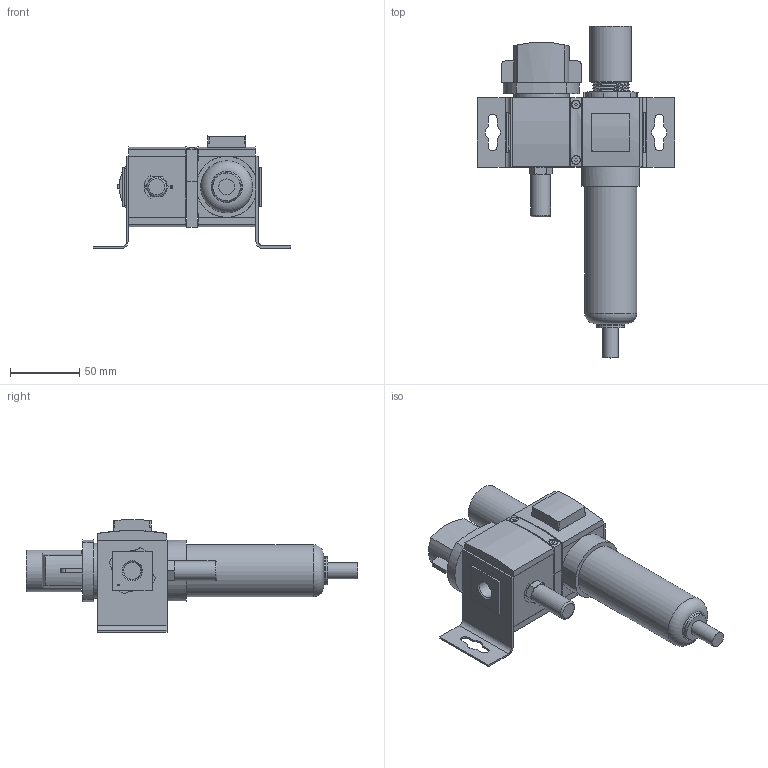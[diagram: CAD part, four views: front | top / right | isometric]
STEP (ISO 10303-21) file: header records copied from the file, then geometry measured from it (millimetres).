
FILE_DESCRIPTION( ( 'STEP AP214' ), '1' );
FILE_NAME( 'p:/temp/worker_135/temp/exporttempdir_4516_360_4Tgsh/format_0/12012020-150246_gen_23299.stp', '2020-02-12T14:01:48', ( '' ), ( '' ), ' ', 'PARTsolutions', ' ' );
FILE_SCHEMA( ( 'AUTOMOTIVE_DESIGN { 1 0 10303 214 1 1 1 1 }' ) );
Length unit declared in the file: millimetre
Products named in the file (15): 12012020-150246_gen_23299; _438683-008-FL; _1437740-001-R-0; _M2MN_651; _437742-001-100_651; _G651ASLA0A00A00_LS; _514893-008-FL; _438047-009_651_gauge; _1437740-002-MR-0; _437932-001_BONNET; _504924-001-STANDARD_651; _434133-001; _501862-002; _8651ASLB0L00A00_LS; _8651ASLB0L00A00_RS
Assembly tree (16 placements, depth 2):
  12012020-150246_gen_23299
    _438683-008-FL
    _1437740-001-R-0  x3
    _M2MN_651
    _437742-001-100_651
    _G651ASLA0A00A00_LS
    _514893-008-FL
    _438047-009_651_gauge
    _1437740-002-MR-0
    _437932-001_BONNET
    _504924-001-STANDARD_651
    _434133-001
    _501862-002
    _8651ASLB0L00A00_LS
    _8651ASLB0L00A00_RS
Bounding box: 142.2 x 239.47 x 81.51 mm (x, y, z)
Volume: 477223.9 mm3; surface area: 124514.9 mm2
Topology: 16 solids, 16 shells, 591 faces, 1468 edges, 954 vertices
Faces by surface type: plane 364, cylinder 178, cone 39, bspline 5, torus 5
Full cylindrical faces by diameter (mm): 2.5 x2, 2.8 x2, 3.5 x2, 4.2 x4, 6 x2, 8.2 x4, 11.3 x1, 13.081 x1, 14.224 x1, 15.1 x1, 20 x3, 20.2 x1, 22.25 x1, 25.5 x2, 30 x1, 35 x1, 37.5 x1, 40 x1
Entity records: 22400 total; most frequent: CARTESIAN_POINT 3739, DIRECTION 2903, ORIENTED_EDGE 2728, EDGE_CURVE 1364, AXIS2_PLACEMENT_3D 990, VERTEX_POINT 926, LINE 923, VECTOR 923
